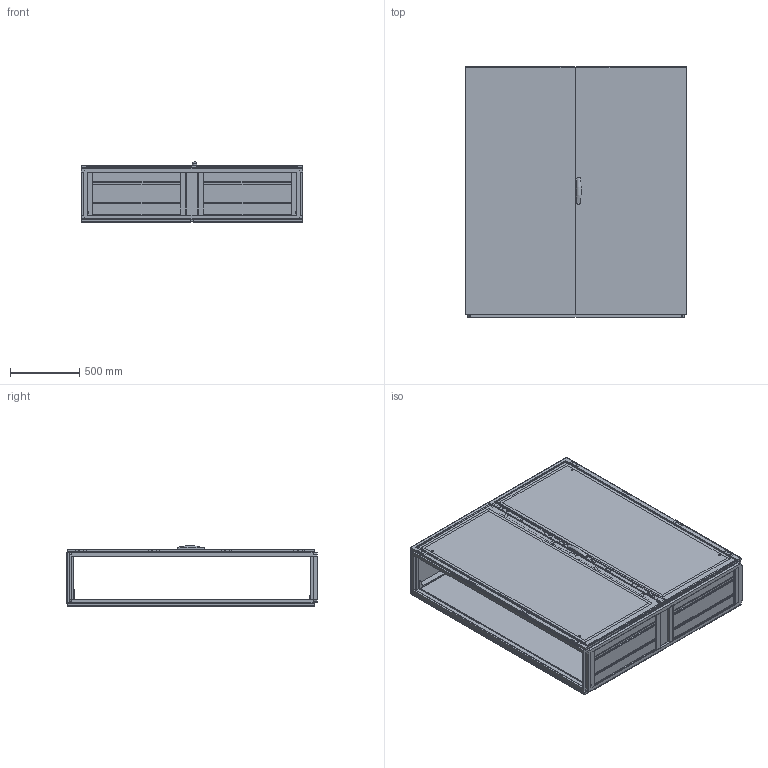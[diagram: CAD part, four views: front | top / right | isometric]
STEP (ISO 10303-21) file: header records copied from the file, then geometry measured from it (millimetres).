
FILE_DESCRIPTION(/* description */ ('STEP AP203'),/* implementation_level */ '2;1');
FILE_NAME(/* name */ 'MCD18164R5(0)',/* time_stamp */ '2024-02-27T10:03:04+01:00',/* author */ ('License CC BY-ND 4.0'),/* organization */ ('CADENAS'),/* preprocessor_version */ 'ST-DEVELOPER v19.3',/* originating_system */ 'PARTsolutions',/* authorisation */ ' ');
FILE_SCHEMA (('CONFIG_CONTROL_DESIGN'));
Length unit declared in the file: millimetre
Products named in the file (28): MCD18164R5(0); MCD18164R5_Frame; CRPK16(0)_Rear Panel Mounting Kit; CRP1816R5(0)_Rear Panel Left; CRP1816R5(0)_Rear Panel Right; CRPK16(0)_Rear Panel Bracket; DNMK02(0)_Hinge Right; DN1808RR5(0)_Right door; LSSDXXXX(0)_Lock; LSSD1800(0)_Espagnolette Top; LSSD1800(0)_Espagnolette Bottom; DNMK02(0)_Hinge Left; DN1808LR5(0)_Left door; LSEL1800(0)_Left Door Espagnolette; DNMK01(0)_Rod catches; CCR164R5(0)_Roof plate; LSSD1800(0)_Lock Catch; LSELXX16X(0)_Left Door Espagnolette; MPA06(0)_Mounting Plate Brackets 1; MP1816(0)_P1; MPA06(0)_Mounting Plate Brackets 2; MPA06(0)_Mounting Plate Brackets 3; MPA06(0)_Mounting Plate Brackets 4; Bottom Plate Profile_1600x400(0); MCD16XX04(0)_Mounting Profile; MCD16XX04(0)_ Middle Top Profile; CBP160(0)_Bottom Plate 1; CBP160(0)_Bottom Plate 2
Assembly tree (54 placements, depth 2):
  MCD18164R5(0)
    MCD18164R5_Frame
    CRPK16(0)_Rear Panel Mounting Kit  x8
    CRP1816R5(0)_Rear Panel Left
    CRP1816R5(0)_Rear Panel Right
    CRPK16(0)_Rear Panel Bracket  x2
    DNMK02(0)_Hinge Right  x4
    DN1808RR5(0)_Right door
    LSSDXXXX(0)_Lock
    LSSD1800(0)_Espagnolette Top
    LSSD1800(0)_Espagnolette Bottom
    DNMK02(0)_Hinge Left  x4
    DN1808LR5(0)_Left door
    LSEL1800(0)_Left Door Espagnolette
    DNMK01(0)_Rod catches  x4
    CCR164R5(0)_Roof plate
    LSSD1800(0)_Lock Catch  x2
    LSELXX16X(0)_Left Door Espagnolette  x2
    MPA06(0)_Mounting Plate Brackets 1  x3
    MP1816(0)_P1
    MPA06(0)_Mounting Plate Brackets 2  x3
    MPA06(0)_Mounting Plate Brackets 3
    MPA06(0)_Mounting Plate Brackets 4
    Bottom Plate Profile_1600x400(0)
    MCD16XX04(0)_Mounting Profile
    MCD16XX04(0)_ Middle Top Profile
    CBP160(0)_Bottom Plate 1  x4
    CBP160(0)_Bottom Plate 2  x2
Bounding box: 1599 x 1803.5 x 434.91 mm (x, y, z)
Volume: 44921443.4 mm3; surface area: 24593564.2 mm2
Topology: 54 solids, 54 shells, 2378 faces, 6422 edges, 4241 vertices
Faces by surface type: plane 2103, cylinder 208, cone 64, sphere 2, torus 1
Full cylindrical faces by diameter (mm): 2.55 x2, 5 x26, 5.2 x2, 5.8 x2, 6 x6, 6.5 x2, 6.7 x4, 7 x6, 7.4 x4, 8 x21, 9 x3, 10 x12, 12.5 x1, 13 x3, 14 x7, 14.12 x1, 15 x4
Entity records: 52829 total; most frequent: CARTESIAN_POINT 9038, ORIENTED_EDGE 8596, DIRECTION 8105, EDGE_CURVE 4298, LINE 3859, VECTOR 3859, VERTEX_POINT 2906, AXIS2_PLACEMENT_3D 2123
